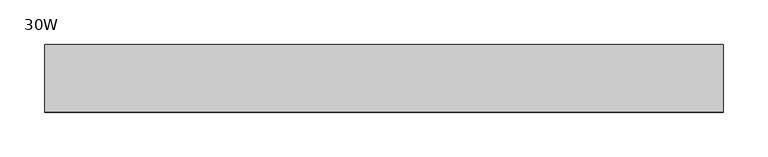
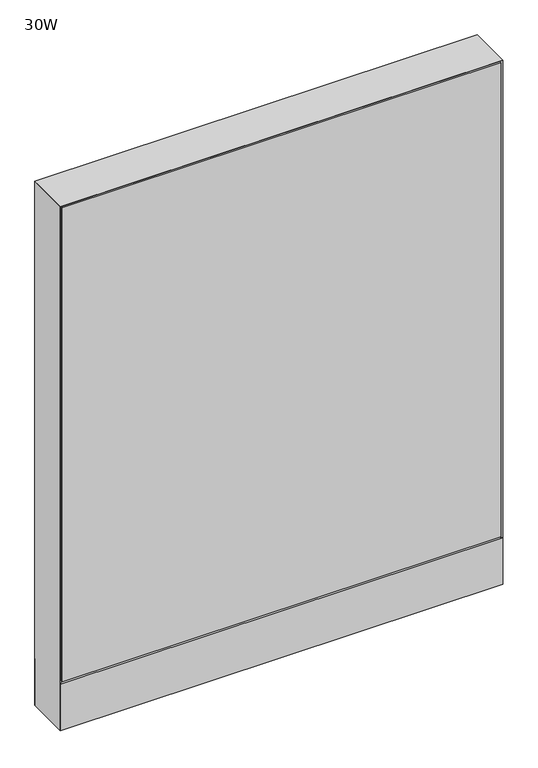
"""IFC4 building model written with IfcOpenShell, lengths in millimetres: furniture geometry, Steelcase - Montage - Frame - 38H - Enhanced Standard - Base Cavity : 30W."""

import ifcopenshell
import ifcopenshell.guid

model = None  # the IFC model being written
_history = None  # IfcOwnerHistory: only IFC2X3 demands one
_inside = {}  # id of a spatial element -> (the spatial element, [elements in it])
_under = {}  # id of a project, library or spatial element -> (it, [spatial elements below it])
_declared = {}  # id of a project -> (the project, [libraries it declares])
_typed = {}  # id of a type object -> (the type object, [elements of that type])
_made_of = {}  # id of a material, layer set ... -> (it, [elements and type objects made of it])


def new_model(schema):
    """Start an empty IFC model of exactly this schema.

    Asked for "IFC4X3", IfcOpenShell would pick the latest addendum, in which some entities
    have other attributes; the version numbers below select the first issue.
    IFC2X3 requires an IfcOwnerHistory on every rooted entity: one is made here for all.
    """
    global model, _history
    if schema == "IFC4X3":
        model = ifcopenshell.file(schema_version=(4, 3, 0, 0))
    else:
        model = ifcopenshell.file(schema=schema)
    _inside.clear()
    _under.clear()
    _declared.clear()
    _typed.clear()
    _made_of.clear()
    _history = None
    if model.schema == "IFC2X3":
        org = make("IfcOrganization", Name="unknown")
        user = make(
            "IfcPersonAndOrganization",
            ThePerson=make("IfcPerson", FamilyName="unknown"),
            TheOrganization=org,
        )
        app = make(
            "IfcApplication",
            ApplicationDeveloper=org,
            Version="unknown",
            ApplicationFullName="unknown",
            ApplicationIdentifier="unknown",
        )
        _history = make(
            "IfcOwnerHistory",
            OwningUser=user,
            OwningApplication=app,
            ChangeAction="ADDED",
            CreationDate=0,
        )
    return model


def make(cls, **values):
    """One entity of the class cls with the attributes given. An attribute that is None is left unset."""
    return model.create_entity(
        cls, **{name: value for name, value in values.items() if value is not None}
    )


def rooted(cls, **values):
    """An entity with a GlobalId (a new one), such as an element, a storey or a relation."""
    return make(cls, GlobalId=ifcopenshell.guid.new(), OwnerHistory=_history, **values)


def si_unit(unit_type, name, prefix=None):
    """IfcSIUnit, for example si_unit("LENGTHUNIT", "METRE", prefix="MILLI")."""
    return make("IfcSIUnit", UnitType=unit_type, Prefix=prefix, Name=name)


def assignment(units):
    """IfcUnitAssignment: the units of a project."""
    return None if units is None else make("IfcUnitAssignment", Units=units)


def point(xyz):
    """IfcCartesianPoint."""
    return None if xyz is None else make("IfcCartesianPoint", Coordinates=xyz)


def direction(xyz):
    """IfcDirection."""
    return None if xyz is None else make("IfcDirection", DirectionRatios=xyz)


def frame(location, z_axis=None, x_axis=None):
    """IfcAxis2Placement3D, a coordinate frame: its origin and axes. An axis left out is left unset."""
    return make(
        "IfcAxis2Placement3D",
        Location=point(location),
        Axis=direction(z_axis),
        RefDirection=direction(x_axis),
    )


def frame_2d(location, x_axis=None):
    """IfcAxis2Placement2D, a coordinate frame in the plane: its origin and x axis."""
    return make(
        "IfcAxis2Placement2D", Location=point(location), RefDirection=direction(x_axis)
    )


def origin():
    """The frame at (0, 0, 0) with its axes left unset."""
    return frame((0.0, 0.0, 0.0))


def origin_with_axes():
    """The frame at (0, 0, 0) with the z axis (0, 0, 1) and the x axis (1, 0, 0) written out."""
    return frame((0.0, 0.0, 0.0), z_axis=(0.0, 0.0, 1.0), x_axis=(1.0, 0.0, 0.0))


def place(relative_to, where):
    """IfcLocalPlacement: puts the frame where relative to a parent placement (None: the world)."""
    return make(
        "IfcLocalPlacement", PlacementRelTo=relative_to, RelativePlacement=where
    )


def context(
    kind, dimensions, precision=None, world=None, true_north=None, identifier=None
):
    """IfcGeometricRepresentationContext, for example the 3D "Model" context."""
    return make(
        "IfcGeometricRepresentationContext",
        ContextIdentifier=identifier,
        ContextType=kind,
        CoordinateSpaceDimension=dimensions,
        Precision=precision,
        WorldCoordinateSystem=world,
        TrueNorth=true_north,
    )


def project(units=None, contexts=None):
    """IfcProject with its units and contexts."""
    return rooted(
        "IfcProject",
        Name="project",
        RepresentationContexts=contexts,
        UnitsInContext=assignment(units),
    )


def spatial(cls, under=None, at=None, **own):
    """A site, building, storey or space (cls), placed at a placement, below another one or the project."""
    s = rooted(cls, ObjectPlacement=at, **own)
    if under is not None:
        _under.setdefault(under.id(), (under, []))[1].append(s)
    return s


def polyline(points):
    """IfcPolyline through the points."""
    return make("IfcPolyline", Points=[point(p) for p in points])


def circle_curve(where, radius):
    """IfcCircle in the frame where."""
    return make("IfcCircle", Position=where, Radius=radius)


def trimmed(basis, trim1, trim2, sense, master):
    """IfcTrimmedCurve: the piece of a basis curve between two trims."""
    return make(
        "IfcTrimmedCurve",
        BasisCurve=basis,
        Trim1=trim1,
        Trim2=trim2,
        SenseAgreement=sense,
        MasterRepresentation=master,
    )


def segment(curve, same_sense, transition):
    """IfcCompositeCurveSegment."""
    return make(
        "IfcCompositeCurveSegment",
        Transition=transition,
        SameSense=same_sense,
        ParentCurve=curve,
    )


def composite_curve(segments, self_intersect=None):
    """IfcCompositeCurve: segments joined end to end."""
    return make("IfcCompositeCurve", Segments=segments, SelfIntersect=self_intersect)


def outline(outer, holes=None, kind="AREA"):
    """IfcArbitraryClosedProfileDef: a profile drawn as a closed curve; with holes, ...WithVoids."""
    if holes is None:
        return make("IfcArbitraryClosedProfileDef", ProfileType=kind, OuterCurve=outer)
    return make(
        "IfcArbitraryProfileDefWithVoids",
        ProfileType=kind,
        OuterCurve=outer,
        InnerCurves=holes,
    )


def extrude(swept, where, along, depth):
    """IfcExtrudedAreaSolid: the profile swept, set in the frame where, extruded along a direction by depth."""
    return make(
        "IfcExtrudedAreaSolid",
        SweptArea=swept,
        Position=where,
        ExtrudedDirection=direction(along),
        Depth=depth,
    )


def faces_of(points, faces, orient=None, outer=None):
    """IfcFace entities. A face is a list of loops; a loop is a list of indices into points, from 0.

    orient and outer hold one flag for each loop. By default every Orientation is true, the
    first loop of a face is its IfcFaceOuterBound and the others are IfcFaceBound.
    """
    made = []
    for i, loops in enumerate(faces):
        bounds = []
        for j, loop in enumerate(loops):
            is_outer = j == 0 if outer is None else outer[i][j]
            bounds.append(
                make(
                    "IfcFaceOuterBound" if is_outer else "IfcFaceBound",
                    Bound=make("IfcPolyLoop", Polygon=[points[k] for k in loop]),
                    Orientation=True if orient is None else orient[i][j],
                )
            )
        made.append(make("IfcFace", Bounds=bounds))
    return made


def faceted_brep(points, faces, orient=None, outer=None, voids=None):
    """IfcFacetedBrep: a solid bounded by flat faces; with voids (closed shells), ...WithVoids."""
    shared = [point(p) for p in points]
    hull = make("IfcClosedShell", CfsFaces=faces_of(shared, faces, orient, outer))
    if voids is None:
        return make("IfcFacetedBrep", Outer=hull)
    return make(
        "IfcFacetedBrepWithVoids",
        Outer=hull,
        Voids=[
            make(cls, CfsFaces=faces_of(shared, fs, o, b)) for cls, fs, o, b in voids
        ],
    )


def shape(context_of_items, identifier, shape_type, items):
    """IfcShapeRepresentation: the items that make up one representation, for example the "Body"."""
    return make(
        "IfcShapeRepresentation",
        ContextOfItems=context_of_items,
        RepresentationIdentifier=identifier,
        RepresentationType=shape_type,
        Items=items,
    )


def source(mapping_origin, context_of_items, identifier, shape_type, items):
    """IfcRepresentationMap: a shape defined once, which mapped items show again and again."""
    return make(
        "IfcRepresentationMap",
        MappingOrigin=mapping_origin,
        MappedRepresentation=shape(context_of_items, identifier, shape_type, items),
    )


def transform(
    local_origin,
    x_axis=None,
    y_axis=None,
    z_axis=None,
    scale=None,
    scale2=None,
    scale3=None,
    uniform=True,
):
    """IfcCartesianTransformationOperator3D, or its non-uniform kind. x_axis, y_axis, z_axis: its Axis1, 2, 3."""
    if uniform:
        return make(
            "IfcCartesianTransformationOperator3D",
            Axis1=direction(x_axis),
            Axis2=direction(y_axis),
            LocalOrigin=point(local_origin),
            Scale=scale,
            Axis3=direction(z_axis),
        )
    return make(
        "IfcCartesianTransformationOperator3DnonUniform",
        Axis1=direction(x_axis),
        Axis2=direction(y_axis),
        LocalOrigin=point(local_origin),
        Scale=scale,
        Axis3=direction(z_axis),
        Scale2=scale2,
        Scale3=scale3,
    )


def mapped(mapping_source, mapping_target):
    """IfcMappedItem: shows the shape of a source again, moved by a transform."""
    return make(
        "IfcMappedItem", MappingSource=mapping_source, MappingTarget=mapping_target
    )


def made_of(thing, what):
    """Note that an element or type object is made of a material, layer set ...; save() writes the relation."""
    if what is not None:
        _made_of.setdefault(what.id(), (what, []))[1].append(thing)
    return thing


def element(
    cls,
    number,
    at=None,
    inside=None,
    cuts=None,
    type_object=None,
    material=None,
    context=None,
    identifier="Body",
    shape_type=None,
    held_by="IfcProductDefinitionShape",
    body=None,
    shapes=None,
    **own,
):
    """One element of the class cls, such as IfcWall. Its Tag is "e" and its number.

    at: its placement. inside: the storey or other place that contains it. cuts: it is an
    opening in that element (IfcRelVoidsElement). A single representation is given by context,
    identifier, shape_type and body (its items); several are given by shapes. held_by: the class
    of the entity that holds the representations. save() writes the other relations.
    """
    e = rooted(cls, Tag="e%d" % number, ObjectPlacement=at, **own)
    if body is not None:
        shapes = [shape(context, identifier, shape_type, body)]
    if shapes is not None:
        e.Representation = make(held_by, Representations=shapes)
    if inside is not None:
        _inside.setdefault(inside.id(), (inside, []))[1].append(e)
    if cuts is not None:
        rooted(
            "IfcRelVoidsElement", RelatingBuildingElement=cuts, RelatedOpeningElement=e
        )
    if type_object is not None:
        _typed.setdefault(type_object.id(), (type_object, []))[1].append(e)
    return made_of(e, material)


def aggregate(whole, parts):
    """IfcRelAggregates: a whole, such as a stair, and the parts it consists of."""
    return rooted("IfcRelAggregates", RelatingObject=whole, RelatedObjects=parts)


def save(model, path):
    """Write the relations noted so far, then the file.

    IfcRelAggregates (storeys below a building ...), IfcRelContainedInSpatialStructure (elements
    in a storey), IfcRelDefinesByType, IfcRelAssociatesMaterial and IfcRelDeclares: one each for
    every whole, place, type object, material and project.
    """
    for whole, parts in _under.values():
        aggregate(whole, parts)
    for where, things in _inside.values():
        rooted(
            "IfcRelContainedInSpatialStructure",
            RelatedElements=things,
            RelatingStructure=where,
        )
    for kind, things in _typed.values():
        rooted("IfcRelDefinesByType", RelatedObjects=things, RelatingType=kind)
    for what, things in _made_of.values():
        rooted("IfcRelAssociatesMaterial", RelatedObjects=things, RelatingMaterial=what)
    for by, libraries in _declared.values():
        rooted("IfcRelDeclares", RelatingContext=by, RelatedDefinitions=libraries)
    model.write(path)


def furniture_30w_479ce9d4(model_context):
    return source(origin(), model_context, "Body", "SolidModel", [
        extrude(outline(polyline([(3.175, 31.7500194), (3.175, 38.1000194), (758.825, 38.1000194), (758.825, 31.7500194), (3.175, 31.7500194)])), frame((0.0, 0.0, 92.075), z_axis=(0.0, 0.0, 1.0), x_axis=(1.0, 0.0, 0.0)), (0.0, 0.0, 1.0), 863.6),
        extrude(outline(polyline([(3.175, -31.7500194), (758.825, -31.7500194), (758.825, -38.1000194), (3.175, -38.1000194), (3.175, -31.7500194)])), frame((0.0, 0.0, 92.075), z_axis=(0.0, 0.0, 1.0), x_axis=(1.0, 0.0, 0.0)), (0.0, 0.0, 1.0), 863.6),
        extrude(outline(polyline([(6.350003, -31.7499985), (755.649997, -31.7499985), (762.0, -38.1000015), (0.0, -38.1000015), (6.350003, -31.7499985)])), frame((0.0, 0.0, 4.064), z_axis=(0.0, 0.0, 1.0), x_axis=(1.0, 0.0, 0.0)), (0.0, 0.0, 1.0), 84.835997),
        extrude(outline(polyline([(6.3500002, 31.7500017), (0.0, 38.1000015), (762.0, 38.1000015), (755.6500002, 31.7500017), (6.3500002, 31.7500017)])), frame((0.0, 0.0, 4.064), z_axis=(0.0, 0.0, 1.0), x_axis=(1.0, 0.0, 0.0)), (0.0, 0.0, 1.0), 84.835997),
        faceted_brep([(762.0, -38.1000015, 958.85), (0.0, -38.1000015, 958.85), (6.3500484, -31.749953, 952.4999516), (755.6499516, -31.749953, 952.4999516), (6.3500484, 31.749953, 952.4999516), (755.6499516, 31.749953, 952.4999516), (0.0, 38.1000015, 958.85), (762.0, 38.1000015, 958.85)], [[[0, 1, 2, 3]], [[3, 2, 4, 5]], [[6, 7, 5, 4]], [[1, 0, 7, 6]], [[2, 1, 6, 4]], [[0, 3, 5, 7]]]),
        extrude(outline(composite_curve([segment(trimmed(circle_curve(frame_2d((44.45, 0.0)), 15.24), [point((29.21, 0.0))], [point((59.69, 0.0))], False, "CARTESIAN"), True, "CONTINUOUS"), segment(trimmed(circle_curve(frame_2d((44.45, 0.0)), 15.24), [point((59.69, 0.0))], [point((29.21, 0.0))], False, "CARTESIAN"), True, "CONTINUOUS")], self_intersect=False)), origin_with_axes(), (0.0, 0.0, 1.0), 4.064),
        extrude(outline(composite_curve([segment(trimmed(circle_curve(frame_2d((717.55, 0.0)), 15.24), [point((702.31, 0.0))], [point((732.79, 0.0))], False, "CARTESIAN"), True, "CONTINUOUS"), segment(trimmed(circle_curve(frame_2d((717.55, 0.0)), 15.24), [point((732.79, 0.0))], [point((702.31, 0.0))], False, "CARTESIAN"), True, "CONTINUOUS")], self_intersect=False)), origin_with_axes(), (0.0, 0.0, 1.0), 4.064),
        faceted_brep([(762.0, -38.1000106, 4.064), (762.0, 38.1000015, 4.064), (762.0, 38.1000015, 958.85), (762.0, -38.1000106, 958.8499637), (0.0, 38.1000015, 4.064), (0.0, -38.1000015, 4.064), (0.0, -38.1000015, 958.85), (0.0, 38.1000015, 958.85), (755.6499879, 31.7500017, 606.425), (6.35, 31.7500017, 606.425), (6.3499998, 31.7500017, 619.125), (755.6499879, 31.7500017, 619.125), (6.35, -31.7499985, 619.125), (755.6499879, -31.7499985, 619.125), (6.350003, -31.7499985, 606.425), (755.6499879, -31.7499985, 606.425), (6.35, 31.7500015, 4.064), (6.35, -31.7500015, 4.064), (755.6499879, 31.7499894, 4.064), (755.6499879, -31.7499985, 4.064), (6.35, 31.7500015, 952.5), (6.35, -31.7500015, 952.5), (755.6499879, -31.7499985, 952.4999516), (755.6499879, 31.7499896, 952.4999516)], [[[0, 1, 2, 3]], [[4, 5, 6, 7]], [[8, 9, 10, 11]], [[11, 10, 12, 13]], [[13, 12, 14, 15]], [[9, 8, 15, 14]], [[16, 17, 5, 4]], [[18, 1, 0, 19]], [[16, 4, 7, 20, 10, 9]], [[5, 17, 14, 12, 21, 6]], [[12, 10, 20, 21]], [[17, 16, 9, 14]], [[11, 13, 22, 23]], [[18, 19, 15, 8]], [[19, 0, 3, 22, 13, 15]], [[1, 18, 8, 11, 23, 2]], [[7, 6, 21, 20]], [[3, 2, 23, 22]]]),
    ])


if __name__ == "__main__":
    model = new_model("IFC4")
    model_context = context("Model", 3, world=origin())
    ifc_project = project(units=[si_unit("LENGTHUNIT", "METRE", prefix="MILLI")], contexts=[model_context])
    site = spatial("IfcSite", under=ifc_project)
    building = spatial("IfcBuilding", under=site)
    placement = place(None, origin())
    furniture_30w_shape = furniture_30w_479ce9d4(model_context)
    element("IfcFurniture", 1, ObjectType="Steelcase - Montage - Frame - 38H - Enhanced Standard - Base Cavity : 30W", at=placement, inside=building, context=model_context, shape_type="MappedRepresentation", body=[
        mapped(furniture_30w_shape, transform((0.0, 0.0, 0.0), x_axis=(1.0, 0.0, 0.0), y_axis=(0.0, 1.0, 0.0), z_axis=(0.0, 0.0, 1.0))),
    ])
    save(model, "model.ifc")
